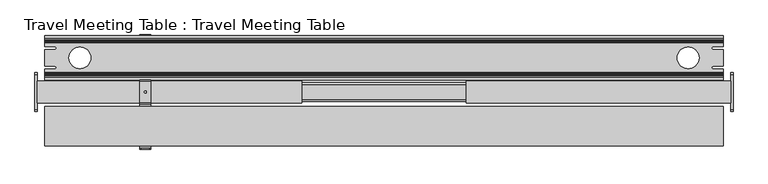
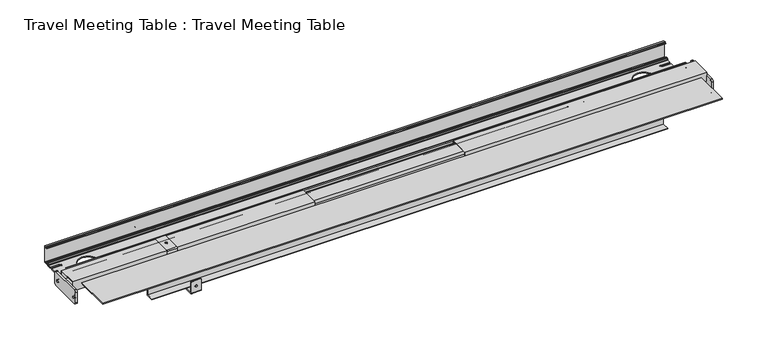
"""IFC4 building model written with IfcOpenShell, lengths in millimetres: furniture geometry, Travel Meeting Table : Travel Meeting Table."""

from ifc_helpers import new_model, si_unit, point, frame, frame_2d, origin, place, context, project, spatial, polyline, circle_curve, trimmed, segment, composite_curve, outline, extrude, source, transform, mapped, element, save
from ifc_brep_helpers import plane_surface, cylinder_surface, revolved_surface, advanced_brep


def travel_meeting_table_travel_meeting_table_bcbf1248(model_context):
    return source(origin(), model_context, "Body", "SolidModel", [
        advanced_brep(
        [(777.5, 129.3350561, 445.9399678), (777.5, 123.9350224, 445.9399678), (777.5, 123.9350224, 444.2399626), (777.5, 120.6350785, 444.2399626), (777.5, 120.6350785, 442.7399451), (777.5, 127.6750557, 442.7399451), (777.5, 127.6750557, 403.5399396), (777.5, 121.4332079, 403.5399396), (777.5, 120.4539751, 404.7426784), (777.5, 119.5139577, 408.0405045), (777.5, 118.3084029, 406.985035), (777.5, 115.3250842, 406.9566355), (777.5, 114.1621731, 408.0556929), (777.5, 113.211477, 404.7244349), (777.5, 112.2520488, 403.5399396), (777.5, 104.1675153, 403.5399396), (777.5, 104.1675153, 401.4999478), (777.5, 129.3350561, 401.4999478), (777.5, 27.5000656, 401.4999478), (777.5, 52.6676065, 401.4999478), (777.5, 52.6676065, 403.5399396), (777.5, 44.583073, 403.5399396), (777.5, 43.6236448, 404.7244349), (777.5, 42.6729487, 408.0556929), (777.5, 41.5100376, 406.9566355), (777.5, 38.5267189, 406.985035), (777.5, 37.3211641, 408.0405045), (777.5, 36.3811467, 404.7426784), (777.5, 35.4019139, 403.5399396), (777.5, 29.1600661, 403.5399396), (777.5, 29.1600661, 442.7399451), (777.5, 36.2000433, 442.7399451), (777.5, 36.2000433, 444.2399626), (777.5, 32.9000994, 444.2399626), (777.5, 32.9000994, 445.9399678), (777.5, 27.5000656, 445.9399678), (777.5, 97.6676214, 401.4999478), (777.5, 97.6676214, 403.5399396), (777.5, 59.1675004, 403.5399396), (777.5, 59.1675004, 401.4999478), (-777.5, 129.3350561, 401.4999478), (-777.5, 104.1675153, 401.4999478), (-777.5, 104.1675153, 403.5399396), (-777.5, 112.2520488, 403.5399396), (-777.5, 113.211477, 404.7244349), (-777.5, 114.1621731, 408.0556929), (-777.5, 115.3250842, 406.9566355), (-777.5, 118.3084029, 406.985035), (-777.5, 119.5139577, 408.0405045), (-777.5, 120.4539751, 404.7426784), (-777.5, 121.4332079, 403.5399396), (-777.5, 127.6750557, 403.5399396), (-777.5, 127.6750557, 442.7399451), (-777.5, 120.6350785, 442.7399451), (-777.5, 120.6350785, 444.2399626), (-777.5, 123.9350224, 444.2399626), (-777.5, 123.9350224, 445.9399678), (-777.5, 129.3350561, 445.9399678), (-777.5, 27.5000656, 445.9399678), (-777.5, 32.9000994, 445.9399678), (-777.5, 32.9000994, 444.2399626), (-777.5, 36.2000433, 444.2399626), (-777.5, 36.2000433, 442.7399451), (-777.5, 29.1600661, 442.7399451), (-777.5, 29.1600661, 403.5399396), (-777.5, 35.4019139, 403.5399396), (-777.5, 36.3811467, 404.7426784), (-777.5, 37.3211641, 408.0405045), (-777.5, 38.5267189, 406.985035), (-777.5, 41.5100376, 406.9566355), (-777.5, 42.6729487, 408.0556929), (-777.5, 43.6236448, 404.7244349), (-777.5, 44.583073, 403.5399396), (-777.5, 52.6676065, 403.5399396), (-777.5, 52.6676065, 401.4999478), (-777.5, 27.5000656, 401.4999478), (-777.5, 97.6676214, 403.5399396), (-777.5, 97.6676214, 401.4999478), (-777.5, 59.1675004, 401.4999478), (-777.5, 59.1675004, 403.5399396), (754.7499352, 104.1675153, 401.4999478), (754.7499352, 97.6676214, 401.4999478), (754.7499352, 59.1675004, 401.4999478), (754.7499352, 52.6676065, 401.4999478), (-754.7499352, 52.6676065, 401.4999478), (-754.7499352, 59.1675004, 401.4999478), (-754.7499352, 97.6676214, 401.4999478), (-754.7499352, 104.1675153, 401.4999478), (-722.4484184, 78.4175609, 401.4999478), (-672.4484184, 78.4175609, 401.4999478), (672.4484184, 78.4175609, 401.4999478), (722.4484184, 78.4175609, 401.4999478), (754.7499352, 52.6676065, 403.5399396), (754.7499352, 59.1675004, 403.5399396), (754.7499352, 97.6676214, 403.5399396), (754.7499352, 104.1675153, 403.5399396), (-754.7499352, 104.1675153, 403.5399396), (-754.7499352, 97.6676214, 403.5399396), (-754.7499352, 59.1675004, 403.5399396), (-754.7499352, 52.6676065, 403.5399396), (-672.4484184, 78.4175609, 403.5399396), (-722.4484184, 78.4175609, 403.5399396), (722.4484184, 78.4175609, 403.5399396), (672.4484184, 78.4175609, 403.5399396)],
        [
            (0, 1),
            (1, 2),
            (2, 3),
            (3, 4),
            (4, 5),
            (5, 6),
            (6, 7),
            (7, 8, circle_curve(frame((777.5, 121.4332079, 404.5399396), z_axis=(-1.0, 0.0, 0.0), x_axis=(0.0, -1.0, 0.0)), 1.0)),
            (8, 9, circle_curve(frame((777.5, 116.8308135, 405.492812), z_axis=(1.0, 0.0, 0.0), x_axis=(0.0, -1.0, 0.0)), 3.7)),
            (9, 10, circle_curve(frame((777.5, 118.9325087, 407.4884085), z_axis=(1.0, 0.0, 0.0), x_axis=(0.0, -1.0, 0.0)), 0.801806)),
            (10, 11, circle_curve(frame((777.5, 116.8308135, 405.492812), z_axis=(-1.0, 0.0, 0.0), x_axis=(0.0, -1.0, 0.0)), 2.1)),
            (11, 12, circle_curve(frame((777.5, 114.7513835, 407.5143696), z_axis=(1.0, 0.0, 0.0), x_axis=(0.0, -1.0, 0.0)), 0.8001249)),
            (12, 13, circle_curve(frame((777.5, 116.8308135, 405.492812), z_axis=(1.0, 0.0, 0.0), x_axis=(0.0, -1.0, 0.0)), 3.7)),
            (13, 14, circle_curve(frame((777.5, 112.2520488, 404.5207505), z_axis=(-1.0, 0.0, 0.0), x_axis=(0.0, -1.0, 0.0)), 0.9808109)),
            (14, 15),
            (15, 16),
            (16, 17),
            (17, 0),
            (18, 19),
            (19, 20),
            (20, 21),
            (21, 22, circle_curve(frame((777.5, 44.583073, 404.5207505), z_axis=(-1.0, 0.0, 0.0), x_axis=(0.0, 1.0, 0.0)), 0.9808109)),
            (22, 23, circle_curve(frame((777.5, 40.0043083, 405.492812), z_axis=(1.0, 0.0, 0.0), x_axis=(0.0, 1.0, 0.0)), 3.7)),
            (23, 24, circle_curve(frame((777.5, 42.0837383, 407.5143696), z_axis=(1.0, 0.0, 0.0), x_axis=(0.0, 1.0, 0.0)), 0.8001249)),
            (24, 25, circle_curve(frame((777.5, 40.0043083, 405.492812), z_axis=(-1.0, 0.0, 0.0), x_axis=(0.0, 1.0, 0.0)), 2.1)),
            (25, 26, circle_curve(frame((777.5, 37.9026131, 407.4884085), z_axis=(1.0, 0.0, 0.0), x_axis=(0.0, 1.0, 0.0)), 0.801806)),
            (26, 27, circle_curve(frame((777.5, 40.0043083, 405.492812), z_axis=(1.0, 0.0, 0.0), x_axis=(0.0, 1.0, 0.0)), 3.7)),
            (27, 28, circle_curve(frame((777.5, 35.4019139, 404.5399396), z_axis=(-1.0, 0.0, 0.0), x_axis=(0.0, 1.0, 0.0)), 1.0)),
            (28, 29),
            (29, 30),
            (30, 31),
            (31, 32),
            (32, 33),
            (33, 34),
            (34, 35),
            (35, 18),
            (36, 37),
            (37, 38),
            (38, 39),
            (39, 36),
            (40, 41),
            (41, 42),
            (42, 43),
            (43, 44, circle_curve(frame((-777.5, 112.2520488, 404.5207505), z_axis=(1.0, 0.0, 0.0), x_axis=(0.0, -1.0, 0.0)), 0.9808109)),
            (44, 45, circle_curve(frame((-777.5, 116.8308135, 405.492812), z_axis=(-1.0, 0.0, 0.0), x_axis=(0.0, -1.0, 0.0)), 3.7)),
            (45, 46, circle_curve(frame((-777.5, 114.7513835, 407.5143696), z_axis=(-1.0, 0.0, 0.0), x_axis=(0.0, -1.0, 0.0)), 0.8001249)),
            (46, 47, circle_curve(frame((-777.5, 116.8308135, 405.492812), z_axis=(1.0, 0.0, 0.0), x_axis=(0.0, -1.0, 0.0)), 2.1)),
            (47, 48, circle_curve(frame((-777.5, 118.9325087, 407.4884085), z_axis=(-1.0, 0.0, 0.0), x_axis=(0.0, -1.0, 0.0)), 0.801806)),
            (48, 49, circle_curve(frame((-777.5, 116.8308135, 405.492812), z_axis=(-1.0, 0.0, 0.0), x_axis=(0.0, -1.0, 0.0)), 3.7)),
            (49, 50, circle_curve(frame((-777.5, 121.4332079, 404.5399396), z_axis=(1.0, 0.0, 0.0), x_axis=(0.0, -1.0, 0.0)), 1.0)),
            (50, 51),
            (51, 52),
            (52, 53),
            (53, 54),
            (54, 55),
            (55, 56),
            (56, 57),
            (57, 40),
            (58, 59),
            (59, 60),
            (60, 61),
            (61, 62),
            (62, 63),
            (63, 64),
            (64, 65),
            (65, 66, circle_curve(frame((-777.5, 35.4019139, 404.5399396), z_axis=(1.0, 0.0, 0.0), x_axis=(0.0, 1.0, 0.0)), 1.0)),
            (66, 67, circle_curve(frame((-777.5, 40.0043083, 405.492812), z_axis=(-1.0, 0.0, 0.0), x_axis=(0.0, 1.0, 0.0)), 3.7)),
            (67, 68, circle_curve(frame((-777.5, 37.9026131, 407.4884085), z_axis=(-1.0, 0.0, 0.0), x_axis=(0.0, 1.0, 0.0)), 0.801806)),
            (68, 69, circle_curve(frame((-777.5, 40.0043083, 405.492812), z_axis=(1.0, 0.0, 0.0), x_axis=(0.0, 1.0, 0.0)), 2.1)),
            (69, 70, circle_curve(frame((-777.5, 42.0837383, 407.5143696), z_axis=(-1.0, 0.0, 0.0), x_axis=(0.0, 1.0, 0.0)), 0.8001249)),
            (70, 71, circle_curve(frame((-777.5, 40.0043083, 405.492812), z_axis=(-1.0, 0.0, 0.0), x_axis=(0.0, 1.0, 0.0)), 3.7)),
            (71, 72, circle_curve(frame((-777.5, 44.583073, 404.5207505), z_axis=(1.0, 0.0, 0.0), x_axis=(0.0, 1.0, 0.0)), 0.9808109)),
            (72, 73),
            (73, 74),
            (74, 75),
            (75, 58),
            (76, 77),
            (77, 78),
            (78, 79),
            (79, 76),
            (17, 40),
            (57, 0),
            (16, 80),
            (80, 81, circle_curve(frame((754.7499352, 100.9175683, 401.4999478), z_axis=(0.0, 0.0, 1.0), x_axis=(-1.0, 0.0, 0.0)), 3.249947)),
            (81, 36),
            (39, 82),
            (82, 83, circle_curve(frame((754.7499352, 55.9175535, 401.4999478), z_axis=(0.0, 0.0, 1.0), x_axis=(-1.0, 0.0, 0.0)), 3.249947)),
            (83, 19),
            (18, 75),
            (74, 84),
            (84, 85, circle_curve(frame((-754.7499352, 55.9175535, 401.4999478), z_axis=(0.0, 0.0, 1.0), x_axis=(1.0, 0.0, 0.0)), 3.249947)),
            (85, 78),
            (77, 86),
            (86, 87, circle_curve(frame((-754.7499352, 100.9175683, 401.4999478), z_axis=(0.0, 0.0, 1.0), x_axis=(1.0, 0.0, 0.0)), 3.249947)),
            (87, 41),
            (88, 89, circle_curve(frame((-697.4484184, 78.4175609, 401.4999478), z_axis=(0.0, 0.0, 1.0), x_axis=(1.0, 0.0, 0.0)), 25.0)),
            (89, 88, circle_curve(frame((-697.4484184, 78.4175609, 401.4999478), z_axis=(0.0, 0.0, 1.0), x_axis=(1.0, 0.0, 0.0)), 25.0)),
            (90, 91, circle_curve(frame((697.4484184, 78.4175609, 401.4999478), z_axis=(0.0, 0.0, 1.0), x_axis=(-1.0, 0.0, 0.0)), 25.0)),
            (91, 90, circle_curve(frame((697.4484184, 78.4175609, 401.4999478), z_axis=(0.0, 0.0, 1.0), x_axis=(-1.0, 0.0, 0.0)), 25.0)),
            (35, 58),
            (34, 59),
            (33, 60),
            (32, 61),
            (31, 62),
            (30, 63),
            (29, 64),
            (28, 65),
            (27, 66),
            (26, 67),
            (25, 68),
            (24, 69),
            (23, 70),
            (22, 71),
            (21, 72),
            (20, 92),
            (92, 93, circle_curve(frame((754.7499352, 55.9175535, 403.5399396), z_axis=(0.0, 0.0, -1.0), x_axis=(-1.0, 0.0, 0.0)), 3.249947)),
            (93, 38),
            (37, 94),
            (94, 95, circle_curve(frame((754.7499352, 100.9175683, 403.5399396), z_axis=(0.0, 0.0, -1.0), x_axis=(-1.0, 0.0, 0.0)), 3.249947)),
            (95, 15),
            (14, 43),
            (42, 96),
            (96, 97, circle_curve(frame((-754.7499352, 100.9175683, 403.5399396), z_axis=(0.0, 0.0, -1.0), x_axis=(1.0, 0.0, 0.0)), 3.249947)),
            (97, 76),
            (79, 98),
            (98, 99, circle_curve(frame((-754.7499352, 55.9175535, 403.5399396), z_axis=(0.0, 0.0, -1.0), x_axis=(1.0, 0.0, 0.0)), 3.249947)),
            (99, 73),
            (100, 101, circle_curve(frame((-697.4484184, 78.4175609, 403.5399396), z_axis=(0.0, 0.0, -1.0), x_axis=(1.0, 0.0, 0.0)), 25.0)),
            (101, 100, circle_curve(frame((-697.4484184, 78.4175609, 403.5399396), z_axis=(0.0, 0.0, -1.0), x_axis=(1.0, 0.0, 0.0)), 25.0)),
            (102, 103, circle_curve(frame((697.4484184, 78.4175609, 403.5399396), z_axis=(0.0, 0.0, -1.0), x_axis=(-1.0, 0.0, 0.0)), 25.0)),
            (103, 102, circle_curve(frame((697.4484184, 78.4175609, 403.5399396), z_axis=(0.0, 0.0, -1.0), x_axis=(-1.0, 0.0, 0.0)), 25.0)),
            (13, 44),
            (12, 45),
            (11, 46),
            (10, 47),
            (9, 48),
            (8, 49),
            (7, 50),
            (6, 51),
            (5, 52),
            (4, 53),
            (3, 54),
            (2, 55),
            (1, 56),
            (99, 84),
            (85, 98),
            (87, 96),
            (86, 97),
            (89, 100),
            (101, 88),
            (83, 92),
            (93, 82),
            (95, 80),
            (94, 81),
            (103, 90),
            (91, 102),
        ],
        [
            plane_surface(frame((777.5, 129.3350561, 401.4999478), z_axis=(1.0, 0.0, 0.0), x_axis=(0.0, 0.0, -1.0))),
            plane_surface(frame((-777.5, 129.3350561, 401.4999478), z_axis=(-1.0, 0.0, 0.0), x_axis=(0.0, 0.0, 1.0))),
            plane_surface(frame((777.5, 129.3350561, 445.9399678), z_axis=(0.0, 1.0, 0.0), x_axis=(-1.0, 0.0, 0.0))),
            plane_surface(frame((777.5, 129.3350561, 401.4999478), z_axis=(0.0, 0.0, -1.0), x_axis=(-1.0, 0.0, 0.0))),
            plane_surface(frame((777.5, 27.5000656, 401.4999478), z_axis=(0.0, -1.0, 0.0), x_axis=(-1.0, 0.0, 0.0))),
            plane_surface(frame((777.5, 27.5000656, 445.9399678), z_axis=(0.0, 0.0, 1.0), x_axis=(-1.0, 0.0, 0.0))),
            plane_surface(frame((777.5, 32.9000994, 445.9399678), z_axis=(0.0, 1.0, 0.0), x_axis=(-1.0, 0.0, 0.0))),
            plane_surface(frame((777.5, 32.9000994, 444.2399626), z_axis=(0.0, 0.0, 1.0), x_axis=(-1.0, 0.0, 0.0))),
            plane_surface(frame((777.5, 36.2000433, 444.2399626), z_axis=(0.0, 1.0, 0.0), x_axis=(-1.0, 0.0, 0.0))),
            plane_surface(frame((777.5, 36.2000433, 442.7399451), z_axis=(0.0, 0.0, -1.0), x_axis=(-1.0, 0.0, 0.0))),
            plane_surface(frame((777.5, 29.1600661, 442.7399451), z_axis=(0.0, 1.0, 0.0), x_axis=(-1.0, 0.0, 0.0))),
            plane_surface(frame((777.5, 29.1600661, 403.5399396), z_axis=(0.0, 0.0, 1.0), x_axis=(-1.0, 0.0, 0.0))),
            revolved_surface(polyline([(-777.5, 36.4019139, 404.5399396), (777.5, 36.4019139, 404.5399396)]), (-777.5, 35.4019139, 404.5399396), (-1.0, 0.0, 0.0)),
            cylinder_surface(frame((-777.5, 40.0043083, 405.492812), z_axis=(1.0, 0.0, 0.0), x_axis=(0.0, 1.0, 0.0)), 3.7),
            cylinder_surface(frame((-777.5, 37.9026131, 407.4884085), z_axis=(1.0, 0.0, 0.0), x_axis=(0.0, 1.0, 0.0)), 0.801806),
            revolved_surface(polyline([(-777.5, 42.1043083, 405.492812), (777.5, 42.1043083, 405.492812)]), (-777.5, 40.0043083, 405.492812), (-1.0, 0.0, 0.0)),
            cylinder_surface(frame((-777.5, 42.0837383, 407.5143696), z_axis=(1.0, 0.0, 0.0), x_axis=(0.0, 1.0, 0.0)), 0.8001249),
            revolved_surface(polyline([(-777.5, 45.5638839, 404.5207505), (777.5, 45.5638839, 404.5207505)]), (-777.5, 44.583073, 404.5207505), (-1.0, 0.0, 0.0)),
            plane_surface(frame((777.5, 44.583073, 403.5399396), z_axis=(0.0, 0.0, 1.0), x_axis=(-1.0, 0.0, 0.0))),
            revolved_surface(polyline([(-777.5, 111.2712379, 404.5207505), (777.5, 111.2712379, 404.5207505)]), (-777.5, 112.2520488, 404.5207505), (-1.0, 0.0, 0.0)),
            cylinder_surface(frame((-777.5, 116.8308135, 405.492812), z_axis=(1.0, 0.0, 0.0), x_axis=(0.0, -1.0, 0.0)), 3.7),
            cylinder_surface(frame((-777.5, 114.7513835, 407.5143696), z_axis=(1.0, 0.0, 0.0), x_axis=(0.0, -1.0, 0.0)), 0.8001249),
            revolved_surface(polyline([(-777.5, 114.73081350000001, 405.492812), (777.5, 114.73081350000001, 405.492812)]), (-777.5, 116.8308135, 405.492812), (-1.0, 0.0, 0.0)),
            cylinder_surface(frame((-777.5, 118.9325087, 407.4884085), z_axis=(1.0, 0.0, 0.0), x_axis=(0.0, -1.0, 0.0)), 0.801806),
            revolved_surface(polyline([(-777.5, 120.4332079, 404.5399396), (777.5, 120.4332079, 404.5399396)]), (-777.5, 121.4332079, 404.5399396), (-1.0, 0.0, 0.0)),
            plane_surface(frame((777.5, 121.4332079, 403.5399396), z_axis=(0.0, 0.0, 1.0), x_axis=(-1.0, 0.0, 0.0))),
            plane_surface(frame((777.5, 127.6750557, 403.5399396), z_axis=(0.0, -1.0, 0.0), x_axis=(-1.0, 0.0, 0.0))),
            plane_surface(frame((777.5, 127.6750557, 442.7399451), z_axis=(0.0, 0.0, -1.0), x_axis=(-1.0, 0.0, 0.0))),
            plane_surface(frame((777.5, 120.6350785, 442.7399451), z_axis=(0.0, -1.0, 0.0), x_axis=(-1.0, 0.0, 0.0))),
            plane_surface(frame((777.5, 120.6350785, 444.2399626), z_axis=(0.0, 0.0, 1.0), x_axis=(-1.0, 0.0, 0.0))),
            plane_surface(frame((777.5, 123.9350224, 444.2399626), z_axis=(0.0, -1.0, 0.0), x_axis=(-1.0, 0.0, 0.0))),
            plane_surface(frame((777.5, 123.9350224, 445.9399678), z_axis=(0.0, 0.0, 1.0), x_axis=(-1.0, 0.0, 0.0))),
            plane_surface(frame((-754.7499352, 52.6676065, 403.5399396), z_axis=(0.0, 1.0, 0.0), x_axis=(0.0, 0.0, -1.0))),
            plane_surface(frame((-777.5, 59.1675004, 403.5399396), z_axis=(0.0, -1.0, 0.0), x_axis=(0.0, 0.0, -1.0))),
            revolved_surface(polyline([(-751.4999882, 55.9175535, 403.5399396), (-751.4999882, 55.9175535, 401.4999478)]), (-754.7499352, 55.9175535, 383.5399396), (0.0, 0.0, 1.0)),
            plane_surface(frame((-777.5, 104.1675153, 403.5399396), z_axis=(0.0, -1.0, 0.0), x_axis=(0.0, 0.0, -1.0))),
            revolved_surface(polyline([(-751.4999882, 100.9175683, 403.5399396), (-751.4999882, 100.9175683, 401.4999478)]), (-754.7499352, 100.9175683, 403.5399396), (0.0, 0.0, 1.0)),
            plane_surface(frame((-754.7499352, 97.6676214, 403.5399396), z_axis=(0.0, 1.0, 0.0), x_axis=(0.0, 0.0, -1.0))),
            revolved_surface(polyline([(-672.4484184, 78.4175609, 403.5399396), (-672.4484184, 78.4175609, 401.4999478)]), (-697.4484184, 78.4175609, 403.5399396), (0.0, 0.0, 1.0)),
            plane_surface(frame((754.7499352, 52.6676065, 403.5399396), z_axis=(0.0, 1.0, 0.0), x_axis=(0.0, 0.0, -1.0))),
            plane_surface(frame((777.5, 59.1675004, 403.5399396), z_axis=(0.0, -1.0, 0.0), x_axis=(0.0, 0.0, -1.0))),
            revolved_surface(polyline([(751.4999882, 55.9175535, 403.5399396), (751.4999882, 55.9175535, 401.4999478)]), (754.7499352, 55.9175535, 383.5399396), (0.0, 0.0, 1.0)),
            plane_surface(frame((777.5, 104.1675153, 403.5399396), z_axis=(0.0, -1.0, 0.0), x_axis=(0.0, 0.0, -1.0))),
            revolved_surface(polyline([(751.4999882, 100.9175683, 403.5399396), (751.4999882, 100.9175683, 401.4999478)]), (754.7499352, 100.9175683, 403.5399396), (0.0, 0.0, 1.0)),
            plane_surface(frame((754.7499352, 97.6676214, 403.5399396), z_axis=(0.0, 1.0, 0.0), x_axis=(0.0, 0.0, -1.0))),
            revolved_surface(polyline([(672.4484184, 78.4175609, 403.5399396), (672.4484184, 78.4175609, 401.4999478)]), (697.4484184, 78.4175609, 403.5399396), (0.0, 0.0, 1.0)),
        ],
        [
            (0, [[1, 2, 3, 4, 5, 6, 7, 8, 9, 10, 11, 12, 13, 14, 15, 16, 17, 18]]),
            (0, [[19, 20, 21, 22, 23, 24, 25, 26, 27, 28, 29, 30, 31, 32, 33, 34, 35, 36]]),
            (0, [[37, 38, 39, 40]]),
            (1, [[41, 42, 43, 44, 45, 46, 47, 48, 49, 50, 51, 52, 53, 54, 55, 56, 57, 58]]),
            (1, [[59, 60, 61, 62, 63, 64, 65, 66, 67, 68, 69, 70, 71, 72, 73, 74, 75, 76]]),
            (1, [[77, 78, 79, 80]]),
            (2, [[81, -58, 82, -18]]),
            (3, [[-17, 83, 84, 85, -40, 86, 87, 88, -19, 89, -75, 90, 91, 92, -78, 93, 94, 95, -41, -81], [96, 97], [98, 99]]),
            (4, [[100, -76, -89, -36]]),
            (5, [[101, -59, -100, -35]]),
            (6, [[102, -60, -101, -34]]),
            (7, [[103, -61, -102, -33]]),
            (8, [[104, -62, -103, -32]]),
            (9, [[105, -63, -104, -31]]),
            (10, [[106, -64, -105, -30]]),
            (11, [[107, -65, -106, -29]]),
            (12, [[108, -66, -107, -28]]),
            (13, [[109, -67, -108, -27]]),
            (14, [[110, -68, -109, -26]]),
            (15, [[111, -69, -110, -25]]),
            (16, [[112, -70, -111, -24]]),
            (13, [[113, -71, -112, -23]]),
            (17, [[114, -72, -113, -22]]),
            (18, [[-21, 115, 116, 117, -38, 118, 119, 120, -15, 121, -43, 122, 123, 124, -80, 125, 126, 127, -73, -114], [128, 129], [130, 131]]),
            (19, [[132, -44, -121, -14]]),
            (20, [[133, -45, -132, -13]]),
            (21, [[134, -46, -133, -12]]),
            (22, [[135, -47, -134, -11]]),
            (23, [[136, -48, -135, -10]]),
            (20, [[137, -49, -136, -9]]),
            (24, [[138, -50, -137, -8]]),
            (25, [[139, -51, -138, -7]]),
            (26, [[140, -52, -139, -6]]),
            (27, [[141, -53, -140, -5]]),
            (28, [[142, -54, -141, -4]]),
            (29, [[143, -55, -142, -3]]),
            (30, [[144, -56, -143, -2]]),
            (31, [[-82, -57, -144, -1]]),
            (32, [[-90, -74, -127, 145]]),
            (33, [[-125, -79, -92, 146]]),
            (34, [[-126, -146, -91, -145]]),
            (35, [[-122, -42, -95, 147]]),
            (36, [[-94, 148, -123, -147]]),
            (37, [[-93, -77, -124, -148]]),
            (38, [[-97, 149, -129, 150]]),
            (38, [[-128, -149, -96, -150]]),
            (39, [[-115, -20, -88, 151]]),
            (40, [[-86, -39, -117, 152]]),
            (41, [[-87, -152, -116, -151]]),
            (42, [[-83, -16, -120, 153]]),
            (43, [[-119, 154, -84, -153]]),
            (44, [[-118, -37, -85, -154]]),
            (45, [[-131, 155, -99, 156]]),
            (45, [[-98, -155, -130, -156]]),
        ],
    ),
        extrude(outline(polyline([(24.9771819, 424.4999393), (-25.0228185, 424.4999393), (-25.0228185, 449.4999613), (24.9771819, 449.4999613), (24.9771819, 424.4999393)]), holes=[polyline([(22.9771819, 426.4999393), (22.9771819, 447.4999613), (-23.0228185, 447.4999613), (-23.0228185, 426.4999393), (22.9771819, 426.4999393)])]), frame((188.374839, 0.0, 0.0), z_axis=(1.0, 0.0, 0.0), x_axis=(0.0, 1.0, 0.0)), (0.0, 0.0, 1.0), 607.1251755),
        extrude(outline(composite_curve([segment(polyline([(-22.272841, 423.9999553), (-22.272841, 442.4999613)]), True, "CONTINUOUS"), segment(trimmed(circle_curve(frame_2d((-17.272841, 442.4999613)), 5.0), [point((-22.272841, 442.4999613))], [point((-17.272841, 447.4999613))], False, "CARTESIAN"), True, "CONTINUOUS"), segment(polyline([(-17.272841, 447.4999613), (17.2272044, 447.4999613)]), True, "CONTINUOUS"), segment(trimmed(circle_curve(frame_2d((17.2272044, 442.4999613)), 5.0), [point((17.2272044, 447.4999613))], [point((22.2272044, 442.4999613))], False, "CARTESIAN"), True, "CONTINUOUS"), segment(polyline([(22.2272044, 442.4999613), (22.2272044, 423.9999553), (19.2272421, 423.9999553), (19.2272421, 440.4999613)]), True, "CONTINUOUS"), segment(trimmed(circle_curve(frame_2d((14.2272421, 440.4999613)), 5.0), [point((19.2272421, 440.4999613))], [point((14.2272421, 445.4999613))], True, "CARTESIAN"), True, "CONTINUOUS"), segment(polyline([(14.2272421, 445.4999613), (-14.2727335, 445.4999613)]), True, "CONTINUOUS"), segment(trimmed(circle_curve(frame_2d((-14.2727335, 440.4999613)), 5.0), [point((-14.2727335, 445.4999613))], [point((-19.2727335, 440.4999613))], True, "CARTESIAN"), True, "CONTINUOUS"), segment(polyline([(-19.2727335, 440.4999613), (-19.2727335, 423.9999553), (-22.272841, 423.9999553)]), True, "CONTINUOUS")], self_intersect=False)), frame((-769.7501328, 0.0, 0.0), z_axis=(1.0, 0.0, 0.0), x_axis=(0.0, 1.0, 0.0)), (0.0, 0.0, 1.0), 1539.5002655),
        extrude(outline(composite_curve([segment(trimmed(circle_curve(frame_2d((-39.9772691, 434.0208959)), 5.0), [point((-44.9772691, 434.0208959))], [point((-39.9772691, 439.0208959))], False, "CARTESIAN"), True, "CONTINUOUS"), segment(polyline([(-39.9772691, 439.0208959), (39.9772692, 439.0208959)]), True, "CONTINUOUS"), segment(trimmed(circle_curve(frame_2d((39.9772692, 434.0208959)), 5.0), [point((39.9772692, 439.0208959))], [point((44.9772692, 434.0208959))], False, "CARTESIAN"), True, "CONTINUOUS"), segment(polyline([(44.9772692, 434.0208959), (44.9772692, 408.020913)]), True, "CONTINUOUS"), segment(trimmed(circle_curve(frame_2d((39.9772692, 408.020913)), 5.0), [point((44.9772692, 408.020913))], [point((39.9772692, 403.020913))], False, "CARTESIAN"), True, "CONTINUOUS"), segment(polyline([(39.9772692, 403.020913), (-39.9772691, 403.020913)]), True, "CONTINUOUS"), segment(trimmed(circle_curve(frame_2d((-39.9772691, 408.020913)), 5.0), [point((-39.9772691, 403.020913))], [point((-44.9772691, 408.020913))], False, "CARTESIAN"), True, "CONTINUOUS"), segment(polyline([(-44.9772691, 408.020913), (-44.9772691, 434.0208959)]), True, "CONTINUOUS")], self_intersect=False), holes=[composite_curve([segment(trimmed(circle_curve(frame_2d((-35.0502786, 417.0711896)), 2.5), [point((-37.5502786, 417.0711896))], [point((-32.5502786, 417.0711896))], True, "CARTESIAN"), True, "CONTINUOUS"), segment(trimmed(circle_curve(frame_2d((-35.0502786, 417.0711896)), 2.5), [point((-32.5502786, 417.0711896))], [point((-37.5502786, 417.0711896))], True, "CARTESIAN"), True, "CONTINUOUS")], self_intersect=False), composite_curve([segment(trimmed(circle_curve(frame_2d((35.0502787, 417.0711896)), 2.5), [point((32.5502787, 417.0711896))], [point((37.5502787, 417.0711896))], True, "CARTESIAN"), True, "CONTINUOUS"), segment(trimmed(circle_curve(frame_2d((35.0502787, 417.0711896)), 2.5), [point((37.5502787, 417.0711896))], [point((32.5502787, 417.0711896))], True, "CARTESIAN"), True, "CONTINUOUS")], self_intersect=False)]), frame((795.5000145, 0.0, 0.0), z_axis=(1.0, 0.0, 0.0), x_axis=(0.0, 1.0, 0.0)), (0.0, 0.0, 1.0), 4.9999855),
        extrude(outline(composite_curve([segment(polyline([(-22.272841, 423.9999553), (-22.272841, 442.4999613)]), True, "CONTINUOUS"), segment(trimmed(circle_curve(frame_2d((-17.272841, 442.4999613)), 5.0), [point((-22.272841, 442.4999613))], [point((-17.272841, 447.4999613))], False, "CARTESIAN"), True, "CONTINUOUS"), segment(polyline([(-17.272841, 447.4999613), (17.2272044, 447.4999613)]), True, "CONTINUOUS"), segment(trimmed(circle_curve(frame_2d((17.2272044, 442.4999613)), 5.0), [point((17.2272044, 447.4999613))], [point((22.2272044, 442.4999613))], False, "CARTESIAN"), True, "CONTINUOUS"), segment(polyline([(22.2272044, 442.4999613), (22.2272044, 423.9999553), (19.2272421, 423.9999553), (19.2272421, 440.4999613)]), True, "CONTINUOUS"), segment(trimmed(circle_curve(frame_2d((14.2272421, 440.4999613)), 5.0), [point((19.2272421, 440.4999613))], [point((14.2272421, 445.4999613))], True, "CARTESIAN"), True, "CONTINUOUS"), segment(polyline([(14.2272421, 445.4999613), (-14.2727335, 445.4999613)]), True, "CONTINUOUS"), segment(trimmed(circle_curve(frame_2d((-14.2727335, 440.4999613)), 5.0), [point((-14.2727335, 445.4999613))], [point((-19.2727335, 440.4999613))], True, "CARTESIAN"), True, "CONTINUOUS"), segment(polyline([(-19.2727335, 440.4999613), (-19.2727335, 423.9999553), (-22.272841, 423.9999553)]), True, "CONTINUOUS")], self_intersect=False)), frame((-472.6249306, 0.0, 0.0), z_axis=(1.0, 0.0, 0.0), x_axis=(0.0, 1.0, 0.0)), (0.0, 0.0, 1.0), 945.2498611),
        extrude(outline(polyline([(-25.0228185, 424.4999393), (-25.0228185, 449.4999613), (24.9771819, 449.4999613), (24.9771819, 424.4999393), (-25.0228185, 424.4999393)]), holes=[polyline([(22.9771819, 447.4999613), (-23.0228185, 447.4999613), (-23.0228185, 426.4999393), (22.9771819, 426.4999393), (22.9771819, 447.4999613)])]), frame((-795.5000145, 0.0, 0.0), z_axis=(1.0, 0.0, 0.0), x_axis=(0.0, 1.0, 0.0)), (0.0, 0.0, 1.0), 607.1251755),
        extrude(outline(composite_curve([segment(trimmed(circle_curve(frame_2d((-39.9772691, 434.0208959)), 5.0), [point((-44.9772691, 434.0208959))], [point((-39.9772691, 439.0208959))], False, "CARTESIAN"), True, "CONTINUOUS"), segment(polyline([(-39.9772691, 439.0208959), (39.9772692, 439.0208959)]), True, "CONTINUOUS"), segment(trimmed(circle_curve(frame_2d((39.9772692, 434.0208959)), 5.0), [point((39.9772692, 439.0208959))], [point((44.9772692, 434.0208959))], False, "CARTESIAN"), True, "CONTINUOUS"), segment(polyline([(44.9772692, 434.0208959), (44.9772692, 408.020913)]), True, "CONTINUOUS"), segment(trimmed(circle_curve(frame_2d((39.9772692, 408.020913)), 5.0), [point((44.9772692, 408.020913))], [point((39.9772692, 403.020913))], False, "CARTESIAN"), True, "CONTINUOUS"), segment(polyline([(39.9772692, 403.020913), (-39.9772691, 403.020913)]), True, "CONTINUOUS"), segment(trimmed(circle_curve(frame_2d((-39.9772691, 408.020913)), 5.0), [point((-39.9772691, 403.020913))], [point((-44.9772691, 408.020913))], False, "CARTESIAN"), True, "CONTINUOUS"), segment(polyline([(-44.9772691, 408.020913), (-44.9772691, 434.0208959)]), True, "CONTINUOUS")], self_intersect=False), holes=[composite_curve([segment(trimmed(circle_curve(frame_2d((-35.0502786, 417.0711896)), 2.5), [point((-37.5502786, 417.0711896))], [point((-32.5502786, 417.0711896))], True, "CARTESIAN"), True, "CONTINUOUS"), segment(trimmed(circle_curve(frame_2d((-35.0502786, 417.0711896)), 2.5), [point((-32.5502786, 417.0711896))], [point((-37.5502786, 417.0711896))], True, "CARTESIAN"), True, "CONTINUOUS")], self_intersect=False), composite_curve([segment(trimmed(circle_curve(frame_2d((35.0502787, 417.0711896)), 2.5), [point((32.5502787, 417.0711896))], [point((37.5502787, 417.0711896))], True, "CARTESIAN"), True, "CONTINUOUS"), segment(trimmed(circle_curve(frame_2d((35.0502787, 417.0711896)), 2.5), [point((37.5502787, 417.0711896))], [point((32.5502787, 417.0711896))], True, "CARTESIAN"), True, "CONTINUOUS")], self_intersect=False)]), frame((-800.5, 0.0, 0.0), z_axis=(1.0, 0.0, 0.0), x_axis=(0.0, 1.0, 0.0)), (0.0, 0.0, 1.0), 4.9999855),
        advanced_brep(
        [(-557.6999638, -131.4999675, 431.4999699), (-559.6999638, -131.4999675, 429.4999699), (-559.6999638, -131.4999675, 401.4999478), (-534.7000362, -131.4999675, 401.4999478), (-534.7000362, -131.4999675, 429.4999699), (-536.7000362, -131.4999675, 431.4999699), (-547.1998547, -131.4999675, 418.9999698), (-547.1998547, -131.4999675, 413.9999479), (-557.6999638, -129.3349834, 431.4999699), (-536.7000362, -129.3349834, 431.4999699), (-534.7000362, -129.3349834, 429.4999699), (-534.7000362, -129.3349834, 401.4999478), (-559.6999638, -129.3349834, 401.4999478), (-559.6999638, -129.3349834, 429.4999699), (-547.1998547, -129.3349834, 418.9999698), (-547.1998547, -129.3349834, 413.9999479), (-559.6999638, -27.4999929, 401.4999478), (-559.6999638, -27.4999929, 449.4999249), (-559.6999638, -25.4999696, 451.4999482), (-559.6999638, 25.454333, 451.4999482), (-559.6999638, 27.4543562, 449.4999249), (-559.6999638, 27.4543562, 401.4999478), (-559.6999638, 129.2893467, 401.4999478), (-559.6999638, 129.2893467, 429.4999699), (-559.6999638, 131.4543309, 429.4999699), (-559.6999638, 131.4543309, 401.4999478), (-559.6999638, 129.4543439, 399.4999609), (-559.6999638, 27.4543562, 399.4999609), (-559.6999638, 25.4543693, 401.4999478), (-559.6999638, 25.454333, 449.4999613), (-559.6999638, -25.4999696, 449.4999613), (-559.6999638, -25.4999696, 401.4999478), (-559.6999638, -27.4999929, 399.4999609), (-559.6999638, -129.4999806, 399.4999609), (-534.7000362, -129.4999806, 399.4999609), (-534.7000362, -27.4999929, 399.4999609), (-534.7000362, -25.500006, 401.4999478), (-534.7000362, -25.4999696, 449.4999613), (-534.7000362, 25.454333, 449.4999613), (-534.7000362, 25.454333, 401.4999478), (-534.7000362, 27.4543562, 399.4999609), (-534.7000362, 129.4543439, 399.4999609), (-534.7000362, 131.4543309, 401.4999478), (-534.7000362, 131.4543309, 429.4999699), (-534.7000362, 129.2893467, 429.4999699), (-534.7000362, 129.2893467, 401.4999478), (-534.7000362, 27.4543562, 401.4999478), (-534.7000362, 27.4543562, 449.4999249), (-534.7000362, 25.454333, 451.4999482), (-534.7000362, -25.4999696, 451.4999482), (-534.7000362, -27.4999929, 449.4999249), (-534.7000362, -27.4999929, 401.4999478), (-557.6999638, 131.4543309, 431.4999699), (-536.7000362, 131.4543309, 431.4999699), (-547.1998547, 131.4543309, 418.9999698), (-547.1998547, 131.4543309, 413.9999479), (-557.6999638, 129.2893467, 431.4999699), (-536.7000362, 129.2893467, 431.4999699), (-547.1998547, 129.2893467, 418.9999698), (-547.1998547, 129.2893467, 413.9999479), (-549.6903888, 0.0232087, 451.4999482), (-544.6903888, 0.0232087, 451.4999482), (-549.6903888, 0.0232087, 449.4999613), (-544.6903888, 0.0232087, 449.4999613)],
        [
            (0, 1, circle_curve(frame((-557.6999638, -131.4999675, 429.4999699), z_axis=(0.0, -1.0, 0.0), x_axis=(0.0, 0.0, -1.0)), 2.0)),
            (1, 2),
            (2, 3),
            (3, 4),
            (4, 5, circle_curve(frame((-536.7000362, -131.4999675, 429.4999699), z_axis=(0.0, -1.0, 0.0), x_axis=(0.0, 0.0, -1.0)), 2.0)),
            (5, 0),
            (6, 7, circle_curve(frame((-547.1998547, -131.4999675, 416.4999588), z_axis=(0.0, 1.0, 0.0), x_axis=(0.0, 0.0, -1.0)), 2.5000109)),
            (7, 6, circle_curve(frame((-547.1998547, -131.4999675, 416.4999588), z_axis=(0.0, 1.0, 0.0), x_axis=(0.0, 0.0, -1.0)), 2.5000109)),
            (8, 9),
            (9, 10, circle_curve(frame((-536.7000362, -129.3349834, 429.4999699), z_axis=(0.0, 1.0, 0.0), x_axis=(0.0, 0.0, -1.0)), 2.0)),
            (10, 11),
            (11, 12),
            (12, 13),
            (13, 8, circle_curve(frame((-557.6999638, -129.3349834, 429.4999699), z_axis=(0.0, 1.0, 0.0), x_axis=(0.0, 0.0, -1.0)), 2.0)),
            (14, 15, circle_curve(frame((-547.1998547, -129.3349834, 416.4999588), z_axis=(0.0, -1.0, 0.0), x_axis=(0.0, 0.0, -1.0)), 2.5000109)),
            (15, 14, circle_curve(frame((-547.1998547, -129.3349834, 416.4999588), z_axis=(0.0, -1.0, 0.0), x_axis=(0.0, 0.0, -1.0)), 2.5000109)),
            (0, 8),
            (13, 1),
            (12, 16),
            (16, 17),
            (17, 18, circle_curve(frame((-559.6999638, -25.4999696, 449.4999249), z_axis=(-1.0, 0.0, 0.0), x_axis=(0.0, 1.0, 0.0)), 2.0000233)),
            (18, 19),
            (19, 20, circle_curve(frame((-559.6999638, 25.454333, 449.4999249), z_axis=(-1.0, 0.0, 0.0), x_axis=(0.0, -1.0, 0.0)), 2.0000233)),
            (20, 21),
            (21, 22),
            (22, 23),
            (23, 24),
            (24, 25),
            (25, 26, circle_curve(frame((-559.6999638, 129.4543439, 401.4999478), z_axis=(-1.0, 0.0, 0.0), x_axis=(0.0, -1.0, 0.0)), 1.9999869)),
            (26, 27),
            (27, 28, circle_curve(frame((-559.6999638, 27.4543562, 401.4999478), z_axis=(-1.0, 0.0, 0.0), x_axis=(0.0, 1.0, 0.0)), 1.9999869)),
            (28, 29),
            (29, 30),
            (30, 31),
            (31, 32, circle_curve(frame((-559.6999638, -27.4999929, 401.4999478), z_axis=(-1.0, 0.0, 0.0), x_axis=(0.0, -1.0, 0.0)), 1.9999869)),
            (32, 33),
            (33, 2, circle_curve(frame((-559.6999638, -129.4999806, 401.4999478), z_axis=(-1.0, 0.0, 0.0), x_axis=(0.0, 1.0, 0.0)), 1.9999869)),
            (3, 34, circle_curve(frame((-534.7000362, -129.4999806, 401.4999478), z_axis=(1.0, 0.0, 0.0), x_axis=(0.0, 1.0, 0.0)), 1.9999869)),
            (34, 35),
            (35, 36, circle_curve(frame((-534.7000362, -27.4999929, 401.4999478), z_axis=(1.0, 0.0, 0.0), x_axis=(0.0, -1.0, 0.0)), 1.9999869)),
            (36, 37),
            (37, 38),
            (38, 39),
            (39, 40, circle_curve(frame((-534.7000362, 27.4543562, 401.4999478), z_axis=(1.0, 0.0, 0.0), x_axis=(0.0, 1.0, 0.0)), 1.9999869)),
            (40, 41),
            (41, 42, circle_curve(frame((-534.7000362, 129.4543439, 401.4999478), z_axis=(1.0, 0.0, 0.0), x_axis=(0.0, -1.0, 0.0)), 1.9999869)),
            (42, 43),
            (43, 44),
            (44, 45),
            (45, 46),
            (46, 47),
            (47, 48, circle_curve(frame((-534.7000362, 25.454333, 449.4999249), z_axis=(1.0, 0.0, 0.0), x_axis=(0.0, -1.0, 0.0)), 2.0000233)),
            (48, 49),
            (49, 50, circle_curve(frame((-534.7000362, -25.4999696, 449.4999249), z_axis=(1.0, 0.0, 0.0), x_axis=(0.0, 1.0, 0.0)), 2.0000233)),
            (50, 51),
            (51, 11),
            (10, 4),
            (9, 5),
            (6, 14),
            (15, 7),
            (34, 33),
            (32, 35),
            (31, 36),
            (51, 16),
            (30, 37),
            (49, 18),
            (17, 50),
            (41, 26),
            (25, 42),
            (21, 46),
            (45, 22),
            (20, 47),
            (19, 48),
            (28, 39),
            (38, 29),
            (27, 40),
            (52, 53),
            (53, 43, circle_curve(frame((-536.7000362, 131.4543309, 429.4999699), z_axis=(0.0, 1.0, 0.0), x_axis=(0.0, 0.0, -1.0)), 2.0)),
            (24, 52, circle_curve(frame((-557.6999638, 131.4543309, 429.4999699), z_axis=(0.0, 1.0, 0.0), x_axis=(0.0, 0.0, -1.0)), 2.0)),
            (54, 55, circle_curve(frame((-547.1998547, 131.4543309, 416.4999588), z_axis=(0.0, -1.0, 0.0), x_axis=(0.0, 0.0, -1.0)), 2.5000109)),
            (55, 54, circle_curve(frame((-547.1998547, 131.4543309, 416.4999588), z_axis=(0.0, -1.0, 0.0), x_axis=(0.0, 0.0, -1.0)), 2.5000109)),
            (56, 23, circle_curve(frame((-557.6999638, 129.2893467, 429.4999699), z_axis=(0.0, -1.0, 0.0), x_axis=(0.0, 0.0, -1.0)), 2.0)),
            (44, 57, circle_curve(frame((-536.7000362, 129.2893467, 429.4999699), z_axis=(0.0, -1.0, 0.0), x_axis=(0.0, 0.0, -1.0)), 2.0)),
            (57, 56),
            (58, 59, circle_curve(frame((-547.1998547, 129.2893467, 416.4999588), z_axis=(0.0, 1.0, 0.0), x_axis=(0.0, 0.0, -1.0)), 2.5000109)),
            (59, 58, circle_curve(frame((-547.1998547, 129.2893467, 416.4999588), z_axis=(0.0, 1.0, 0.0), x_axis=(0.0, 0.0, -1.0)), 2.5000109)),
            (56, 52),
            (53, 57),
            (55, 59),
            (58, 54),
            (60, 61, circle_curve(frame((-547.1903888, 0.0232087, 451.4999482), z_axis=(0.0, 0.0, -1.0), x_axis=(1.0, 0.0, 0.0)), 2.5)),
            (61, 60, circle_curve(frame((-547.1903888, 0.0232087, 451.4999482), z_axis=(0.0, 0.0, -1.0), x_axis=(1.0, 0.0, 0.0)), 2.5)),
            (62, 63, circle_curve(frame((-547.1903888, 0.0232087, 449.4999613), z_axis=(0.0, 0.0, 1.0), x_axis=(1.0, 0.0, 0.0)), 2.5)),
            (63, 62, circle_curve(frame((-547.1903888, 0.0232087, 449.4999613), z_axis=(0.0, 0.0, 1.0), x_axis=(1.0, 0.0, 0.0)), 2.5)),
            (60, 62),
            (63, 61),
        ],
        [
            plane_surface(frame((-557.6999638, -131.4999675, 427.4999699), z_axis=(0.0, -1.0, 0.0), x_axis=(1.0, 0.0, 0.0))),
            plane_surface(frame((-557.6999638, -129.3349834, 427.4999699), z_axis=(0.0, 1.0, 0.0), x_axis=(-1.0, 0.0, 0.0))),
            cylinder_surface(frame((-557.6999638, -129.3349834, 429.4999699), z_axis=(0.0, -1.0, 0.0), x_axis=(0.0, 0.0, -1.0)), 2.0),
            plane_surface(frame((-559.6999638, -131.4999675, 429.4999699), z_axis=(-1.0, 0.0, 0.0), x_axis=(0.0, 1.0, 0.0))),
            plane_surface(frame((-534.7000362, -131.4999675, 401.4999478), z_axis=(1.0, 0.0, 0.0), x_axis=(0.0, 1.0, 0.0))),
            cylinder_surface(frame((-536.7000362, -129.3349834, 429.4999699), z_axis=(0.0, -1.0, 0.0), x_axis=(0.0, 0.0, -1.0)), 2.0),
            plane_surface(frame((-536.7000362, -131.4999675, 431.4999699), z_axis=(0.0, 0.0, 1.0), x_axis=(0.0, 1.0, 0.0))),
            revolved_surface(polyline([(-547.1998547, -129.3349834, 413.9999479), (-547.1998547, -131.4999675, 413.9999479)]), (-547.1998547, -27.4999929, 416.4999588), (0.0, 1.0, 0.0)),
            plane_surface(frame((-534.7000362, -129.4999806, 399.4999609), z_axis=(0.0, 0.0, -1.0), x_axis=(-1.0, 0.0, 0.0))),
            cylinder_surface(frame((-559.6999638, -27.4999929, 401.4999478), z_axis=(1.0, 0.0, 0.0), x_axis=(0.0, -1.0, 0.0)), 1.9999869),
            plane_surface(frame((-534.7000362, -27.4999929, 401.4999478), z_axis=(0.0, 0.0, 1.0), x_axis=(-1.0, 0.0, 0.0))),
            cylinder_surface(frame((-559.6999638, -129.4999806, 401.4999478), z_axis=(1.0, 0.0, 0.0), x_axis=(0.0, 1.0, 0.0)), 1.9999869),
            plane_surface(frame((-534.7000362, -25.4999696, 401.4999478), z_axis=(0.0, 1.0, 0.0), x_axis=(-1.0, 0.0, 0.0))),
            cylinder_surface(frame((-559.6999638, -25.4999696, 449.4999249), z_axis=(1.0, 0.0, 0.0), x_axis=(0.0, 1.0, 0.0)), 2.0000233),
            plane_surface(frame((-534.7000362, -27.4999929, 449.4999249), z_axis=(0.0, -1.0, 0.0), x_axis=(-1.0, 0.0, 0.0))),
            cylinder_surface(frame((-300.4670952, 129.4543439, 401.4999478), z_axis=(1.0, 0.0, 0.0), x_axis=(0.0, -1.0, 0.0)), 1.9999869),
            plane_surface(frame((-534.7000362, 131.4543309, 401.4999478), z_axis=(0.0, 0.0, 1.0), x_axis=(-1.0, 0.0, 0.0))),
            plane_surface(frame((-534.7000362, 27.4543562, 401.4999478), z_axis=(0.0, 1.0, 0.0), x_axis=(-1.0, 0.0, 0.0))),
            cylinder_surface(frame((-300.4670952, 25.454333, 449.4999249), z_axis=(1.0, 0.0, 0.0), x_axis=(0.0, -1.0, 0.0)), 2.0000233),
            plane_surface(frame((-534.7000362, 25.454333, 451.4999482), z_axis=(0.0, -1.0, 0.0), x_axis=(-1.0, 0.0, 0.0))),
            cylinder_surface(frame((-300.4670952, 27.4543562, 401.4999478), z_axis=(1.0, 0.0, 0.0), x_axis=(0.0, 1.0, 0.0)), 1.9999869),
            plane_surface(frame((-534.7000362, 27.4543562, 399.4999609), z_axis=(0.0, 0.0, -1.0), x_axis=(-1.0, 0.0, 0.0))),
            plane_surface(frame((-536.6999142, 131.4543309, 431.4999699), z_axis=(0.0, 1.0, 0.0), x_axis=(1.0, 0.0, 0.0))),
            plane_surface(frame((-536.6999142, 129.2893467, 431.4999699), z_axis=(0.0, -1.0, 0.0), x_axis=(-1.0, 0.0, 0.0))),
            cylinder_surface(frame((-557.6999638, 129.2893467, 429.4999699), z_axis=(0.0, 1.0, 0.0), x_axis=(0.0, 0.0, -1.0)), 2.0),
            cylinder_surface(frame((-536.7000362, 129.2893467, 429.4999699), z_axis=(0.0, 1.0, 0.0), x_axis=(0.0, 0.0, -1.0)), 2.0),
            plane_surface(frame((-557.6999638, 131.4543309, 431.4999699), z_axis=(0.0, 0.0, 1.0), x_axis=(0.0, -1.0, 0.0))),
            revolved_surface(polyline([(-547.1998547, 129.2893467, 413.9999479), (-547.1998547, 131.4543309, 413.9999479)]), (-547.1998547, 27.4543562, 416.4999588), (0.0, -1.0, 0.0)),
            plane_surface(frame((-534.7000362, -25.4999696, 451.4999482), z_axis=(0.0, 0.0, 1.0), x_axis=(1.0, 0.0, 0.0))),
            plane_surface(frame((-534.7000362, -25.4999696, 449.4999613), z_axis=(0.0, 0.0, -1.0), x_axis=(-1.0, 0.0, 0.0))),
            revolved_surface(polyline([(-544.6903888, 0.0232087, 449.4999613), (-544.6903888, 0.0232087, 451.4999482)]), (-547.1903888, 0.0232087, -19.0000394), (0.0, 0.0, -1.0)),
        ],
        [
            (0, [[1, 2, 3, 4, 5, 6], [7, 8]]),
            (1, [[9, 10, 11, 12, 13, 14], [15, 16]]),
            (2, [[-1, 17, -14, 18]]),
            (3, [[-2, -18, -13, 19, 20, 21, 22, 23, 24, 25, 26, 27, 28, 29, 30, 31, 32, 33, 34, 35, 36, 37]]),
            (4, [[-4, 38, 39, 40, 41, 42, 43, 44, 45, 46, 47, 48, 49, 50, 51, 52, 53, 54, 55, 56, -11, 57]]),
            (5, [[-5, -57, -10, 58]]),
            (6, [[-6, -58, -9, -17]]),
            (7, [[-7, 59, -16, 60]]),
            (7, [[-8, -60, -15, -59]]),
            (8, [[-39, 61, -36, 62]]),
            (9, [[-40, -62, -35, 63]]),
            (10, [[64, -19, -12, -56]]),
            (11, [[-38, -3, -37, -61]]),
            (12, [[-63, -34, 65, -41]]),
            (13, [[-54, 66, -21, 67]]),
            (14, [[-55, -67, -20, -64]]),
            (15, [[-46, 68, -29, 69]]),
            (16, [[70, -50, 71, -25]]),
            (17, [[-51, -70, -24, 72]]),
            (18, [[-52, -72, -23, 73]]),
            (19, [[74, -43, 75, -32]]),
            (20, [[-44, -74, -31, 76]]),
            (21, [[-45, -76, -30, -68]]),
            (22, [[77, 78, -47, -69, -28, 79], [80, 81]]),
            (23, [[82, -26, -71, -49, 83, 84], [85, 86]]),
            (24, [[-79, -27, -82, 87]]),
            (25, [[-78, 88, -83, -48]]),
            (26, [[-77, -87, -84, -88]]),
            (27, [[-81, 89, -85, 90]]),
            (27, [[-80, -90, -86, -89]]),
            (28, [[-53, -73, -22, -66], [91, 92]]),
            (29, [[-33, -75, -42, -65], [93, 94]]),
            (30, [[-91, 95, -94, 96]]),
            (30, [[-92, -96, -93, -95]]),
        ],
    ),
        extrude(outline(polyline([(-123.9349496, 445.9399678), (-32.9000267, 445.9399678), (-32.9000267, 444.2399626), (-36.1999706, 444.2399626), (-36.1999706, 442.7399451), (-120.6350057, 442.7399451), (-120.6350057, 444.2399626), (-123.9349496, 444.2399626), (-123.9349496, 445.9399678)])), frame((-777.5, 0.0, 0.0), z_axis=(1.0, 0.0, 0.0), x_axis=(0.0, 1.0, 0.0)), (0.0, 0.0, 1.0), 1555.0),
        extrude(outline(polyline([(-93.8250143, 443.539969), (-92.3249605, 443.539969), (-92.3249605, 403.5399396), (-112.3249752, 403.5399396), (-112.3249752, 405.039957), (-93.8250143, 405.039957), (-93.8250143, 443.539969)])), frame((-647.4997955, 0.0, 0.0), z_axis=(1.0, 0.0, 0.0), x_axis=(0.0, 1.0, 0.0)), (0.0, 0.0, 1.0), 1294.9995911),
    ])


if __name__ == "__main__":
    model = new_model("IFC4")
    model_context = context("Model", 3, world=origin())
    ifc_project = project(units=[si_unit("LENGTHUNIT", "METRE", prefix="MILLI")], contexts=[model_context])
    site = spatial("IfcSite", under=ifc_project)
    building = spatial("IfcBuilding", under=site)
    placement = place(None, origin())
    travel_meeting_table_travel_meeting_table_shape = travel_meeting_table_travel_meeting_table_bcbf1248(model_context)
    element("IfcFurniture", 1, ObjectType="Travel Meeting Table : Travel Meeting Table", at=placement, inside=building, context=model_context, shape_type="MappedRepresentation", body=[
        mapped(travel_meeting_table_travel_meeting_table_shape, transform((0.0, 0.0, 0.0), x_axis=(1.0, 0.0, 0.0), y_axis=(0.0, 1.0, 0.0), z_axis=(0.0, 0.0, 1.0))),
    ])
    save(model, "model.ifc")
